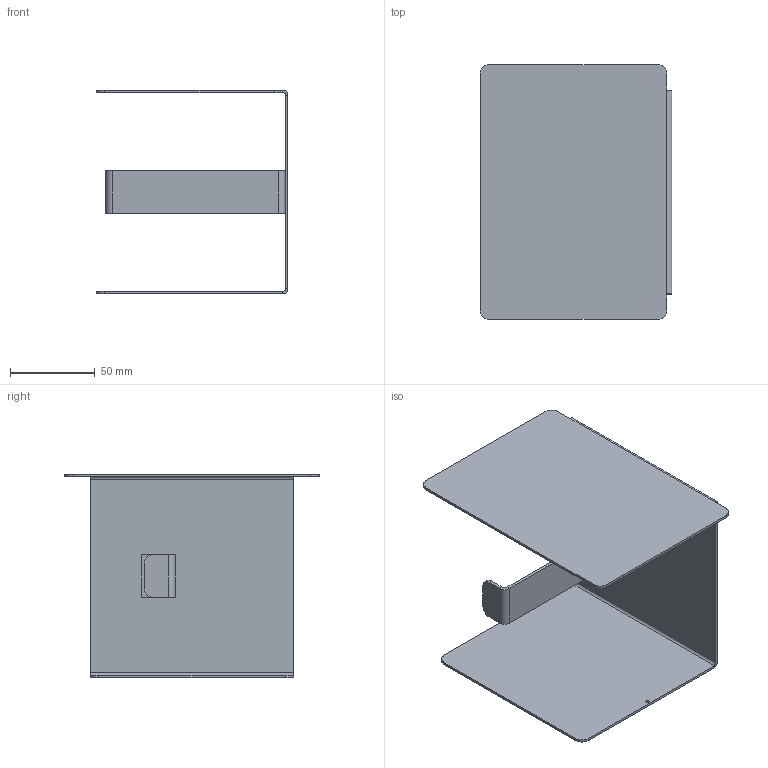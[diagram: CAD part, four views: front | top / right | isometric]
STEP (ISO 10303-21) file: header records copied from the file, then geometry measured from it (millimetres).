
FILE_DESCRIPTION (( 'STEP AP214' ), '1' );
FILE_NAME ('03-009-0120-W-00-00.STEP', '2023-08-16T11:23:08', ( '' ), ( '' ), 'SwSTEP 2.0', 'SolidWorks 2021', '' );
FILE_SCHEMA (( 'AUTOMOTIVE_DESIGN' ));
Length unit declared in the file: millimetre
Products named in the file (3): 03-009-0120-W-00-02; 03-009-0120-W-00-00; 03-009-0120-W-00-01
Assembly tree (2 placements, depth 2):
  03-009-0120-W-00-00
    03-009-0120-W-00-01
    03-009-0120-W-00-02
Bounding box: 113 x 150 x 120 mm (x, y, z)
Volume: 73139.1 mm3; surface area: 97340 mm2
Topology: 2 solids, 2 shells, 56 faces, 124 edges, 72 vertices
Faces by surface type: plane 38, cylinder 18
Entity records: 1622 total; most frequent: DIRECTION 282, CARTESIAN_POINT 257, ORIENTED_EDGE 248, EDGE_CURVE 124, AXIS2_PLACEMENT_3D 97, VECTOR 88, LINE 88, VERTEX_POINT 72
